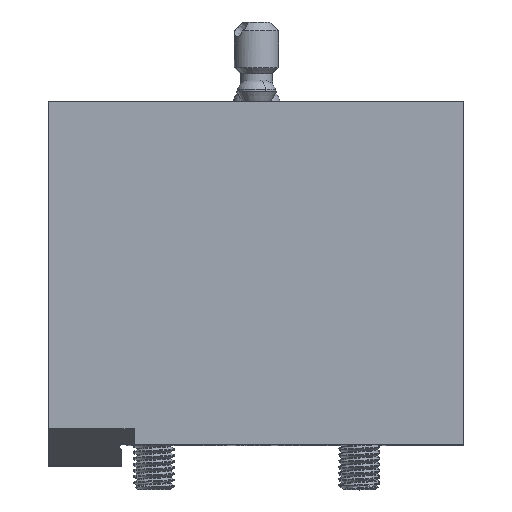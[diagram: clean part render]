
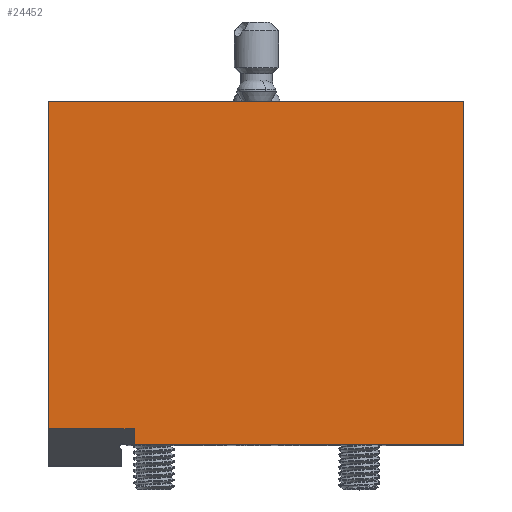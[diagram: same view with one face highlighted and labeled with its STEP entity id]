
A CAD part, top view. The second image highlights one B-rep face of the part: STEP entity #24452.
In plain terms, the highlighted planar face has unit normal (0, 0, 1).
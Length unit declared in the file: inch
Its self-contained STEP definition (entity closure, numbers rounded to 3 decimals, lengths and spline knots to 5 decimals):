
#320 = ORIENTED_EDGE ( 'NONE', *, *, #3088, .F. ) ;
#582 = CARTESIAN_POINT ( 'NONE',  ( 3.315, 0., 1.77 ) ) ;
#1962 = LINE ( 'NONE', #6046, #18616 ) ;
#3088 = EDGE_CURVE ( 'NONE', #13712, #24023, #5581, .T. ) ;
#4926 = CARTESIAN_POINT ( 'NONE',  ( 0.125, 0.15711, 1.77 ) ) ;
#5581 = LINE ( 'NONE', #20159, #13827 ) ;
#5990 = VECTOR ( 'NONE', #16670, 39.37008 ) ;
#6046 = CARTESIAN_POINT ( 'NONE',  ( 0.125, 0.15711, 1.77 ) ) ;
#6498 = CARTESIAN_POINT ( 'NONE',  ( -0.705, 0.15711, 1.77 ) ) ;
#6581 = CARTESIAN_POINT ( 'NONE',  ( 0.125, 0.15711, 1.77 ) ) ;
#8175 = CARTESIAN_POINT ( 'NONE',  ( 3.315, 3.325, 1.77 ) ) ;
#8345 = LINE ( 'NONE', #16941, #5990 ) ;
#8878 = AXIS2_PLACEMENT_3D ( 'NONE', #25727, #25989, #21898 ) ;
#9388 = ORIENTED_EDGE ( 'NONE', *, *, #15841, .F. ) ;
#10942 = DIRECTION ( 'NONE',  ( -1., 0., 0. ) ) ;
#11220 = ORIENTED_EDGE ( 'NONE', *, *, #15086, .F. ) ;
#11628 = VERTEX_POINT ( 'NONE', #4926 ) ;
#12780 = EDGE_CURVE ( 'NONE', #13820, #11628, #1962, .T. ) ;
#13712 = VERTEX_POINT ( 'NONE', #6498 ) ;
#13820 = VERTEX_POINT ( 'NONE', #17129 ) ;
#13827 = VECTOR ( 'NONE', #26722, 39.37008 ) ;
#14938 = ORIENTED_EDGE ( 'NONE', *, *, #22162, .F. ) ;
#15086 = EDGE_CURVE ( 'NONE', #15363, #24887, #20589, .T. ) ;
#15363 = VERTEX_POINT ( 'NONE', #26803 ) ;
#15771 = LINE ( 'NONE', #20249, #26597 ) ;
#15841 = EDGE_CURVE ( 'NONE', #24023, #15363, #8345, .T. ) ;
#16509 = DIRECTION ( 'NONE',  ( 0., -1., 0. ) ) ;
#16670 = DIRECTION ( 'NONE',  ( 1., 0., 0. ) ) ;
#16941 = CARTESIAN_POINT ( 'NONE',  ( -0.705, 3.325, 1.77 ) ) ;
#17129 = CARTESIAN_POINT ( 'NONE',  ( 0.125, 0., 1.77 ) ) ;
#17776 = ORIENTED_EDGE ( 'NONE', *, *, #12780, .F. ) ;
#18448 = DIRECTION ( 'NONE',  ( 0., 1., 0. ) ) ;
#18616 = VECTOR ( 'NONE', #18448, 39.37008 ) ;
#19275 = PLANE ( 'NONE',  #8878 ) ;
#19411 = FACE_OUTER_BOUND ( 'NONE', #21079, .T. ) ;
#20159 = CARTESIAN_POINT ( 'NONE',  ( -0.705, -0.2, 1.77 ) ) ;
#20249 = CARTESIAN_POINT ( 'NONE',  ( 3.315, 0., 1.77 ) ) ;
#20589 = LINE ( 'NONE', #8175, #22525 ) ;
#21079 = EDGE_LOOP ( 'NONE', ( #320, #14938, #17776, #24695, #11220, #9388 ) ) ;
#21584 = EDGE_CURVE ( 'NONE', #24887, #13820, #15771, .T. ) ;
#21807 = VECTOR ( 'NONE', #10942, 39.37008 ) ;
#21898 = DIRECTION ( 'NONE',  ( -1., 0., 0. ) ) ;
#22162 = EDGE_CURVE ( 'NONE', #11628, #13712, #23076, .T. ) ;
#22525 = VECTOR ( 'NONE', #16509, 39.37008 ) ;
#23076 = LINE ( 'NONE', #6581, #21807 ) ;
#24023 = VERTEX_POINT ( 'NONE', #25759 ) ;
#24088 = DIRECTION ( 'NONE',  ( -1., 0., 0. ) ) ;
#24452 = ADVANCED_FACE ( 'NONE', ( #19411 ), #19275, .F. ) ;
#24695 = ORIENTED_EDGE ( 'NONE', *, *, #21584, .F. ) ;
#24887 = VERTEX_POINT ( 'NONE', #582 ) ;
#25727 = CARTESIAN_POINT ( 'NONE',  ( -0.705, 0., 1.77 ) ) ;
#25759 = CARTESIAN_POINT ( 'NONE',  ( -0.705, 3.325, 1.77 ) ) ;
#25989 = DIRECTION ( 'NONE',  ( 0., 0., -1. ) ) ;
#26597 = VECTOR ( 'NONE', #24088, 39.37008 ) ;
#26722 = DIRECTION ( 'NONE',  ( 0., 1., 0. ) ) ;
#26803 = CARTESIAN_POINT ( 'NONE',  ( 3.315, 3.325, 1.77 ) ) ;
